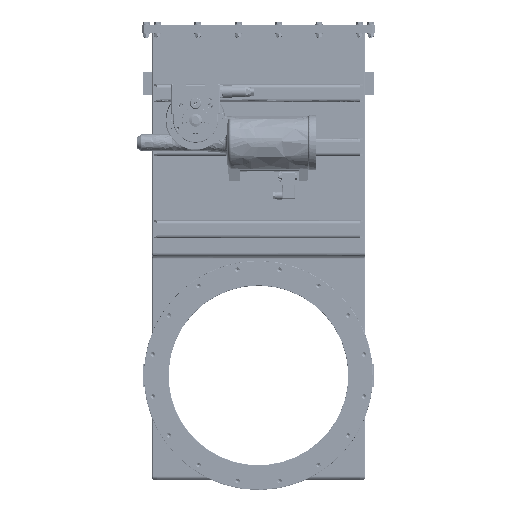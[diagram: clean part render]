
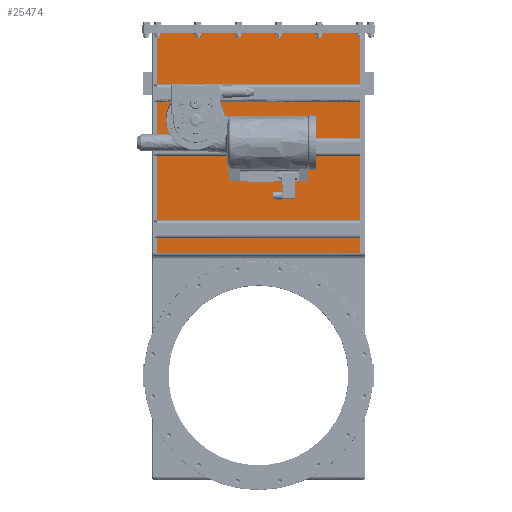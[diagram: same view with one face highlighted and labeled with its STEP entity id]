
A CAD part, top view. The second image highlights one B-rep face of the part: STEP entity #25474.
In plain terms, the highlighted free-form (B-spline) face has degree [1, 1] with [2, 2] control points.
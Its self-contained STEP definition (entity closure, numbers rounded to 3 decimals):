
#24720=CARTESIAN_POINT('V36',(-221.55,0.,
   -140.0));
#24721=VERTEX_POINT('V36',#24720);
#24727=CARTESIAN_POINT('E54',(-221.55,0.,
   -140.0));
#24728=CARTESIAN_POINT('E54',(-221.55,0.,
   -187.718));
#24729=CARTESIAN_POINT('E54',(-180.225,0.,
   -163.859));
#24730=CARTESIAN_POINT('E54',(-138.9,0.,
   -140.));
#24731=CARTESIAN_POINT('E54',(-180.225,0.,
   -116.141));
#24732=CARTESIAN_POINT('E54',(-221.55,0.,
   -92.282));
#24733=CARTESIAN_POINT('E54',(-221.55,0.,
   -140.0));
#24741=(BOUNDED_CURVE()B_SPLINE_CURVE(2,(#24727,#24728,#24729,
   #24730,#24731,#24732,#24733),.CIRCULAR_ARC.,.T.,.U.)
   B_SPLINE_CURVE_WITH_KNOTS((3,2,2,3),(0.0,0.333,
   0.667,1.0),.UNSPECIFIED.)CURVE()
   GEOMETRIC_REPRESENTATION_ITEM()RATIONAL_B_SPLINE_CURVE((1.0,
   0.5,1.0,0.5,1.0,0.5,1.0)
   )REPRESENTATION_ITEM('E54'));
#24742=EDGE_CURVE('E54',#24721,#24721,#24741,.T.);
#25088=CARTESIAN_POINT('V17',(-489.,0.,
   -225.125));
#25089=VERTEX_POINT('V17',#25088);
#25103=CARTESIAN_POINT('V28',(-489.,0.,
   225.125));
#25104=VERTEX_POINT('V28',#25103);
#25105=CARTESIAN_POINT('E46',(-489.,0.,
   -225.125));
#25106=CARTESIAN_POINT('E46',(-489.,0.,
   225.125));
#25107=QUASI_UNIFORM_CURVE('E46',1,(#25105,#25106),.POLYLINE_FORM.,
   .F.,.U.);
#25108=EDGE_CURVE('E46',#25089,#25104,#25107,.T.);
#25162=CARTESIAN_POINT('V27',(0.0,0.0,225.125));
#25163=VERTEX_POINT('V27',#25162);
#25164=CARTESIAN_POINT('E31',(0.0,0.0,225.125));
#25165=CARTESIAN_POINT('E31',(-489.,0.,
   225.125));
#25166=QUASI_UNIFORM_CURVE('E31',1,(#25164,#25165),.POLYLINE_FORM.,
   .F.,.U.);
#25167=EDGE_CURVE('E31',#25163,#25104,#25166,.T.);
#25226=CARTESIAN_POINT('V18',(0.0,0.0,-225.125));
#25227=VERTEX_POINT('V18',#25226);
#25241=CARTESIAN_POINT('E43',(0.0,0.0,-225.125));
#25242=CARTESIAN_POINT('E43',(0.0,0.0,225.125));
#25243=QUASI_UNIFORM_CURVE('E43',1,(#25241,#25242),.POLYLINE_FORM.,
   .F.,.U.);
#25244=EDGE_CURVE('E43',#25227,#25163,#25243,.T.);
#25444=CARTESIAN_POINT('E20',(-489.,0.,
   -225.125));
#25445=CARTESIAN_POINT('E20',(0.0,0.0,-225.125));
#25446=QUASI_UNIFORM_CURVE('E20',1,(#25444,#25445),.POLYLINE_FORM.,
   .F.,.U.);
#25447=EDGE_CURVE('E20',#25089,#25227,#25446,.T.);
#25460=CARTESIAN_POINT('F20',(0.0,0.0,-225.125));
#25461=CARTESIAN_POINT('F20',(-489.,0.,
   -225.125));
#25462=CARTESIAN_POINT('F20',(0.0,0.0,225.125));
#25463=CARTESIAN_POINT('F20',(-489.,0.,
   225.125));
#25464=QUASI_UNIFORM_SURFACE('F20',1,1,((#25460,#25462),(#25461,
   #25463)),.PLANE_SURF.,.F.,.F.,.U.);
#25465=ORIENTED_EDGE('E20',*,*,#25447,.T.);
#25466=ORIENTED_EDGE('F9',*,*,#25244,.T.);
#25467=ORIENTED_EDGE('E31',*,*,#25167,.T.);
#25468=ORIENTED_EDGE('E46',*,*,#25108,.F.);
#25469=EDGE_LOOP('F20',(#25465,#25466,#25467,#25468));
#25470=FACE_OUTER_BOUND('F20',#25469,.F.);
#25471=ORIENTED_EDGE('E54',*,*,#24742,.F.);
#25472=EDGE_LOOP('F20',(#25471));
#25473=FACE_BOUND('F20',#25472,.F.);
#25474=ADVANCED_FACE('F20',(#25470,#25473),#25464,.T.);
